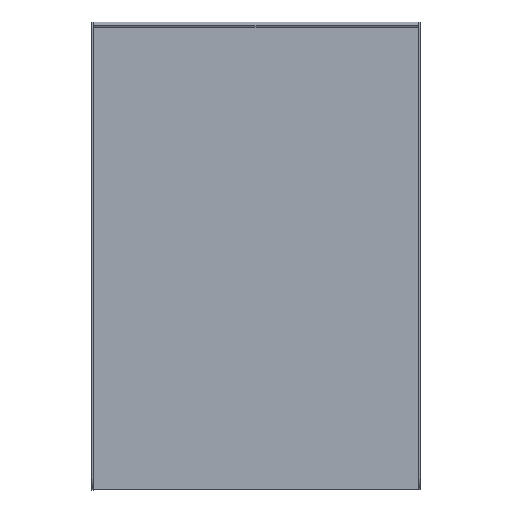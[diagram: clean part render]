
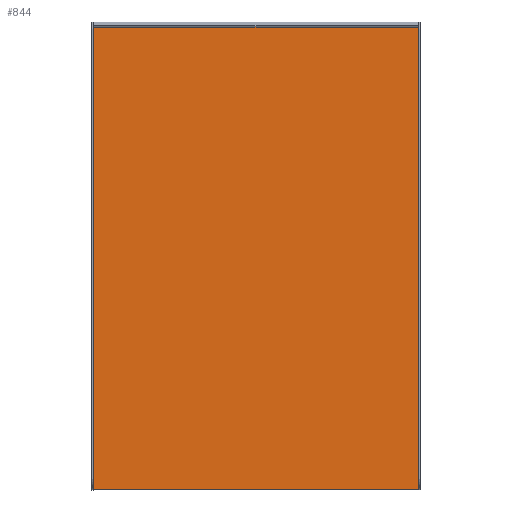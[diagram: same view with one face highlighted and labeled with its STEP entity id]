
A CAD part, front view. The second image highlights one B-rep face of the part: STEP entity #844.
In plain terms, the highlighted planar face has unit normal (0, -1, 0).
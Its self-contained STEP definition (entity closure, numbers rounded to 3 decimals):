
#13 = ORIENTED_EDGE ( 'NONE', *, *, #56, .F. ) ;
#34 = VERTEX_POINT ( 'NONE', #258 ) ;
#47 = CARTESIAN_POINT ( 'NONE',  ( -497., 0., 347. ) ) ;
#56 = EDGE_CURVE ( 'NONE', #1860, #814, #272, .T. ) ;
#92 = DIRECTION ( 'NONE',  ( -1., 0., 0. ) ) ;
#124 = VERTEX_POINT ( 'NONE', #1442 ) ;
#168 = CARTESIAN_POINT ( 'NONE',  ( 497., 0., 347. ) ) ;
#179 = VECTOR ( 'NONE', #92, 1000. ) ;
#258 = CARTESIAN_POINT ( 'NONE',  ( -497., 0., 347. ) ) ;
#272 = LINE ( 'NONE', #1111, #179 ) ;
#304 = EDGE_CURVE ( 'NONE', #34, #124, #999, .T. ) ;
#305 = VECTOR ( 'NONE', #737, 1000. ) ;
#346 = DIRECTION ( 'NONE',  ( 0., 0., 1. ) ) ;
#379 = EDGE_CURVE ( 'NONE', #124, #1860, #458, .T. ) ;
#458 = LINE ( 'NONE', #168, #305 ) ;
#482 = DIRECTION ( 'NONE',  ( 0., -1., 0. ) ) ;
#486 = ORIENTED_EDGE ( 'NONE', *, *, #379, .F. ) ;
#617 = DIRECTION ( 'NONE',  ( 0., 0., -1. ) ) ;
#737 = DIRECTION ( 'NONE',  ( 0., 0., -1. ) ) ;
#750 = VECTOR ( 'NONE', #346, 1000. ) ;
#763 = CARTESIAN_POINT ( 'NONE',  ( 497., 0., -347. ) ) ;
#814 = VERTEX_POINT ( 'NONE', #1495 ) ;
#844 = ADVANCED_FACE ( 'NONE', ( #1211 ), #1795, .T. ) ;
#872 = CARTESIAN_POINT ( 'NONE',  ( -497., 0., 347. ) ) ;
#874 = ORIENTED_EDGE ( 'NONE', *, *, #1032, .F. ) ;
#999 = LINE ( 'NONE', #872, #1123 ) ;
#1032 = EDGE_CURVE ( 'NONE', #814, #34, #1499, .T. ) ;
#1036 = CARTESIAN_POINT ( 'NONE',  ( 0., 0., 0. ) ) ;
#1111 = CARTESIAN_POINT ( 'NONE',  ( -497., 0., -347. ) ) ;
#1123 = VECTOR ( 'NONE', #1295, 1000. ) ;
#1211 = FACE_OUTER_BOUND ( 'NONE', #1594, .T. ) ;
#1295 = DIRECTION ( 'NONE',  ( 1., 0., 0. ) ) ;
#1442 = CARTESIAN_POINT ( 'NONE',  ( 497., 0., 347. ) ) ;
#1495 = CARTESIAN_POINT ( 'NONE',  ( -497., 0., -347. ) ) ;
#1499 = LINE ( 'NONE', #47, #750 ) ;
#1578 = ORIENTED_EDGE ( 'NONE', *, *, #304, .F. ) ;
#1594 = EDGE_LOOP ( 'NONE', ( #486, #1578, #874, #13 ) ) ;
#1669 = AXIS2_PLACEMENT_3D ( 'NONE', #1036, #482, #617 ) ;
#1795 = PLANE ( 'NONE',  #1669 ) ;
#1860 = VERTEX_POINT ( 'NONE', #763 ) ;
